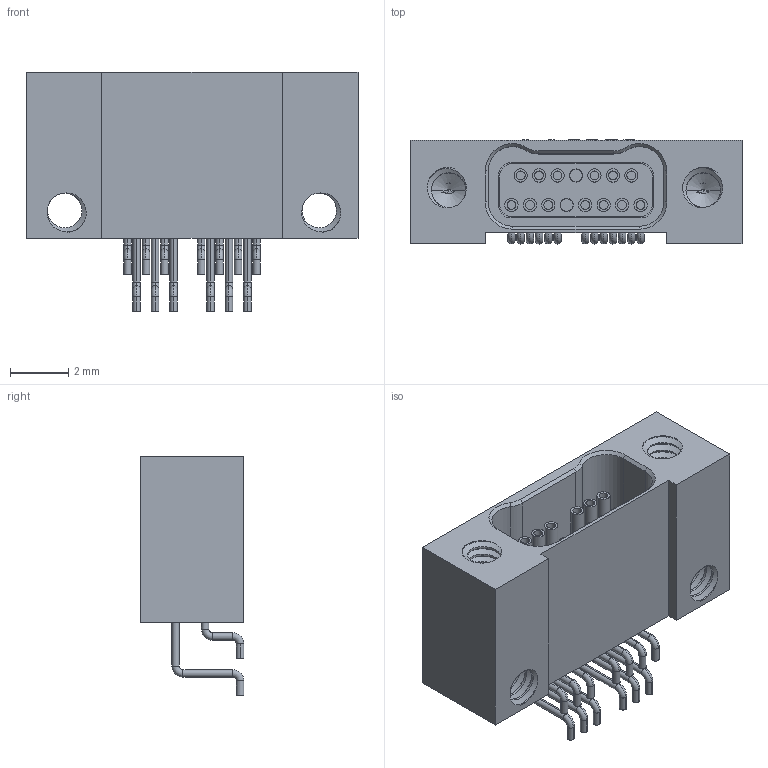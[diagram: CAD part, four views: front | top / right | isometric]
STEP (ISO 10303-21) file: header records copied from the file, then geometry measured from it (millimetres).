
FILE_DESCRIPTION (( 'STEP AP214' ), '1' );
FILE_NAME ('A29861-001 REV A.STEP', '2025-06-06T18:41:52', ( '' ), ( '' ), 'SwSTEP 2.0', 'SolidWorks 2024', '' );
FILE_SCHEMA (( 'AUTOMOTIVE_DESIGN' ));
Length unit declared in the file: inch
Products named in the file (1): A29861-001 REV A
Bounding box: 11.43 x 3.57 x 8.23 mm (x, y, z)
Volume: 160.4 mm3; surface area: 478.1 mm2
Topology: 1 solids, 1 shells, 534 faces, 1320 edges, 845 vertices
Faces by surface type: cylinder 228, plane 182, bspline 62, torus 52, cone 10
Entity records: 25592 total; most frequent: CARTESIAN_POINT 13490, ORIENTED_EDGE 2640, DIRECTION 2361, EDGE_CURVE 1320, AXIS2_PLACEMENT_3D 862, VERTEX_POINT 845, VECTOR 637, LINE 637
